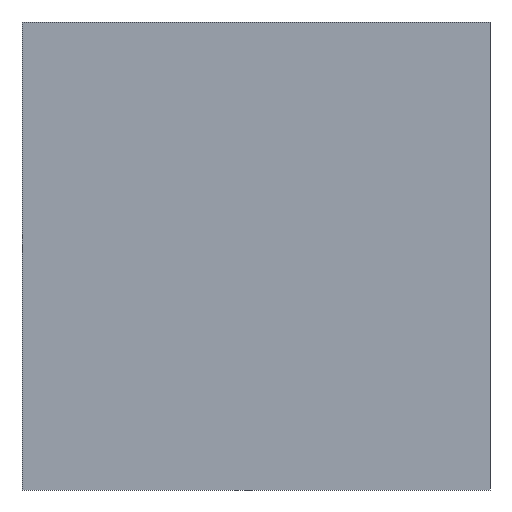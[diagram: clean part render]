
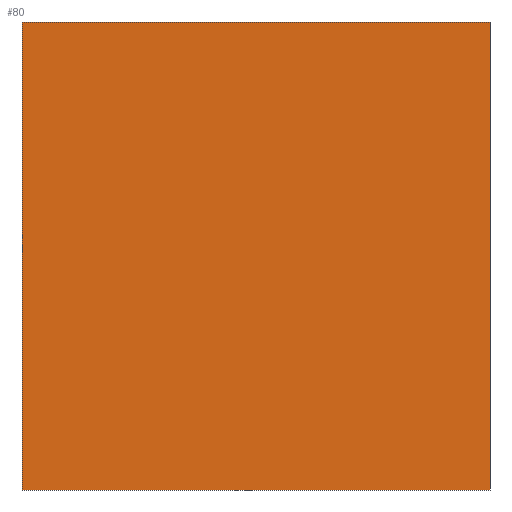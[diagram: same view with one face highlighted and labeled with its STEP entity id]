
A CAD part, front view. The second image highlights one B-rep face of the part: STEP entity #80.
In plain terms, the highlighted planar face has unit normal (0, -1, 0).
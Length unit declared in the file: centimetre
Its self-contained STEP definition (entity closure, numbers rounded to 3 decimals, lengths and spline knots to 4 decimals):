
#5 = LINE ( 'NONE', #110, #158 ) ;
#7 = CARTESIAN_POINT ( 'NONE',  ( 0., 0., 1000. ) ) ;
#15 = CARTESIAN_POINT ( 'NONE',  ( 0., 0., 0. ) ) ;
#34 = DIRECTION ( 'NONE',  ( 0., 0., 1. ) ) ;
#37 = VECTOR ( 'NONE', #151, 100. ) ;
#47 = DIRECTION ( 'NONE',  ( 1., 0., 0. ) ) ;
#48 = VERTEX_POINT ( 'NONE', #166 ) ;
#49 = CARTESIAN_POINT ( 'NONE',  ( 0., 0., 1000. ) ) ;
#67 = ORIENTED_EDGE ( 'NONE', *, *, #357, .F. ) ;
#74 = CARTESIAN_POINT ( 'NONE',  ( 1000., 0., 0. ) ) ;
#80 = ADVANCED_FACE ( 'NONE', ( #434 ), #323, .F. ) ;
#82 = VECTOR ( 'NONE', #47, 100. ) ;
#97 = ORIENTED_EDGE ( 'NONE', *, *, #202, .T. ) ;
#110 = CARTESIAN_POINT ( 'NONE',  ( 1000., 0., 1000. ) ) ;
#125 = ORIENTED_EDGE ( 'NONE', *, *, #378, .F. ) ;
#149 = DIRECTION ( 'NONE',  ( 0., 0., -1. ) ) ;
#151 = DIRECTION ( 'NONE',  ( 0., 0., -1. ) ) ;
#158 = VECTOR ( 'NONE', #149, 100. ) ;
#166 = CARTESIAN_POINT ( 'NONE',  ( 1000., 0., 1000. ) ) ;
#202 = EDGE_CURVE ( 'NONE', #305, #340, #359, .T. ) ;
#224 = AXIS2_PLACEMENT_3D ( 'NONE', #49, #296, #34 ) ;
#275 = VECTOR ( 'NONE', #401, 100. ) ;
#295 = CARTESIAN_POINT ( 'NONE',  ( 0., 0., 1000. ) ) ;
#296 = DIRECTION ( 'NONE',  ( 0., 1., 0. ) ) ;
#305 = VERTEX_POINT ( 'NONE', #437 ) ;
#323 = PLANE ( 'NONE',  #224 ) ;
#330 = LINE ( 'NONE', #7, #37 ) ;
#336 = ORIENTED_EDGE ( 'NONE', *, *, #345, .T. ) ;
#340 = VERTEX_POINT ( 'NONE', #74 ) ;
#345 = EDGE_CURVE ( 'NONE', #382, #305, #330, .T. ) ;
#356 = EDGE_LOOP ( 'NONE', ( #97, #67, #125, #336 ) ) ;
#357 = EDGE_CURVE ( 'NONE', #48, #340, #5, .T. ) ;
#359 = LINE ( 'NONE', #15, #82 ) ;
#370 = CARTESIAN_POINT ( 'NONE',  ( 0., 0., 1000. ) ) ;
#378 = EDGE_CURVE ( 'NONE', #382, #48, #441, .T. ) ;
#382 = VERTEX_POINT ( 'NONE', #370 ) ;
#401 = DIRECTION ( 'NONE',  ( 1., 0., 0. ) ) ;
#434 = FACE_OUTER_BOUND ( 'NONE', #356, .T. ) ;
#437 = CARTESIAN_POINT ( 'NONE',  ( 0., 0., 0. ) ) ;
#441 = LINE ( 'NONE', #295, #275 ) ;
